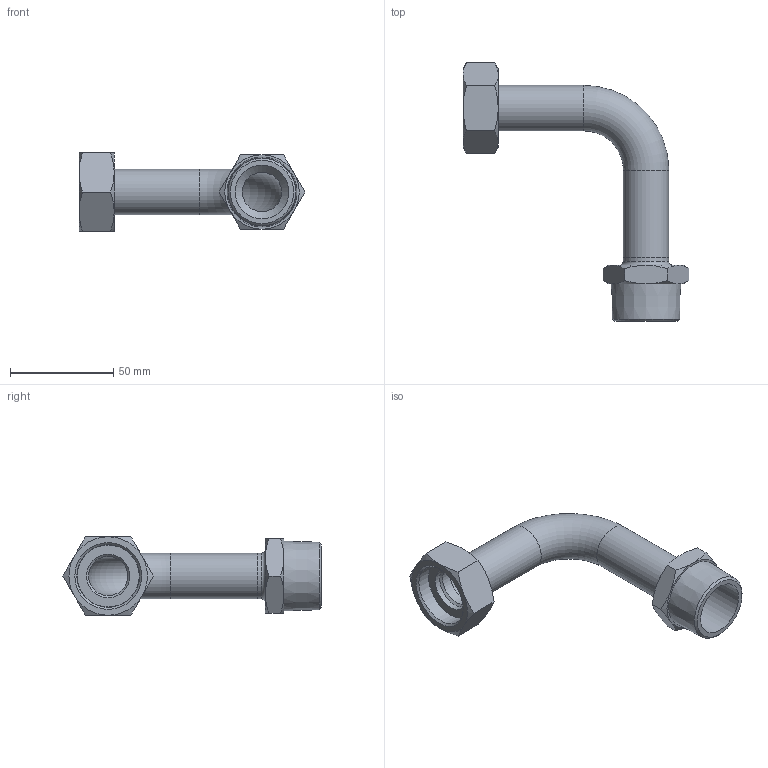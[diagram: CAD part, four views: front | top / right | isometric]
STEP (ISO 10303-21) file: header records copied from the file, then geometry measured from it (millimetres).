
FILE_DESCRIPTION((''),'2;1');
FILE_NAME('G:\Nirosan-Schmiedefeld\Technics\CAD\Bauteile VA\022\69002mg11(3).stp','2011-10-26T14:27:05',('herberg'),(''),'Autodesk Inventor 2009','Autodesk Inventor 2009','');
FILE_SCHEMA(('AUTOMOTIVE_DESIGN { 1 0 10303 214 1 1 1 1 }'));
Length unit declared in the file: millimetre
Products named in the file (6): 69002mg11(3); B_69002mg11(2); R221(0); AG221(0); FD_3021_EPDM(0); SM221(4)
Assembly tree (5 placements, depth 2):
  69002mg11(3)
    B_69002mg11(2)
    R221(0)
    AG221(0)
    FD_3021_EPDM(0)
    SM221(4)
Bounding box: 109.28 x 124.94 x 38 mm (x, y, z)
Volume: 37088.4 mm3; surface area: 31803.6 mm2
Topology: 5 solids, 5 shells, 73 faces, 145 edges, 86 vertices
Faces by surface type: cone 28, plane 25, cylinder 10, bspline 8, torus 2
Full cylindrical faces by diameter (mm): 19 x3, 21 x1, 22 x4, 29 x1, 30 x1
Entity records: 2023 total; most frequent: CARTESIAN_POINT 558, DIRECTION 282, ORIENTED_EDGE 238, AXIS2_PLACEMENT_3D 135, EDGE_CURVE 119, EDGE_LOOP 110, VERTEX_POINT 83, FACE_OUTER_BOUND 73
